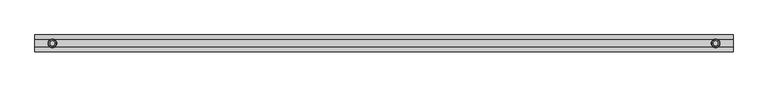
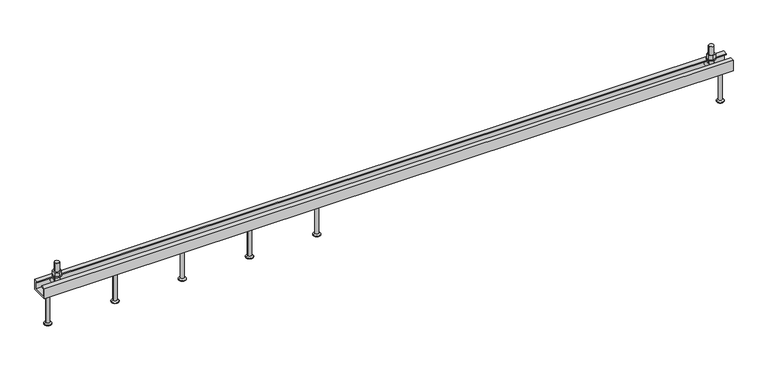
"""IFC4 building model written with IfcOpenShell, lengths in millimetres: fastener geometry, JTA-K JORDAHL® AnchorChannels : JTA-K L=3000 mm."""

from ifc_helpers import new_model, si_unit, point, frame, frame_2d, origin, place, context, project, spatial, polyline, circle_curve, trimmed, segment, composite_curve, outline, extrude, source, transform, mapped, element, save
from ifc_brep_helpers import plane_surface, cylinder_surface, revolved_surface, advanced_brep


def fastener_a3ed88b3(model_context):
    return source(origin(), model_context, "Body", "SolidModel", [
        advanced_brep(
        [(1207.0, 0.0, -48.0), (1184.0, 0.0, -48.0), (1230.0, 0.0, -48.0), (1191.5, 0.0, -195.0), (1207.0, 0.0, -195.0), (1222.5, 0.0, -195.0), (1191.5, 0.0, -193.0), (1222.5, 0.0, -193.0), (1199.2, 0.0, -188.5544029), (1214.8, 0.0, -188.5544029), (1199.2, 0.0, -52.0), (1214.8, 0.0, -52.0)],
        [
            (0, 1),
            (1, 2, circle_curve(frame((1207.0, 0.0, -48.0), z_axis=(0.0, 0.0, 1.0), x_axis=(1.0, 0.0, 0.0)), 23.0)),
            (2, 0),
            (2, 1, circle_curve(frame((1207.0, 0.0, -48.0), z_axis=(0.0, 0.0, 1.0), x_axis=(1.0, 0.0, 0.0)), 23.0)),
            (3, 4),
            (4, 5),
            (5, 3, circle_curve(frame((1207.0, 0.0, -195.0), z_axis=(0.0, 0.0, -1.0), x_axis=(1.0, 0.0, 0.0)), 15.5)),
            (3, 5, circle_curve(frame((1207.0, 0.0, -195.0), z_axis=(0.0, 0.0, -1.0), x_axis=(1.0, 0.0, 0.0)), 15.5)),
            (6, 3),
            (5, 7),
            (7, 6, circle_curve(frame((1207.0, 0.0, -193.0), z_axis=(0.0, 0.0, -1.0), x_axis=(1.0, 0.0, 0.0)), 15.5)),
            (6, 7, circle_curve(frame((1207.0, 0.0, -193.0), z_axis=(0.0, 0.0, -1.0), x_axis=(1.0, 0.0, 0.0)), 15.5)),
            (8, 6),
            (7, 9),
            (9, 8, circle_curve(frame((1207.0, 0.0, -188.5544029), z_axis=(0.0, 0.0, -1.0), x_axis=(1.0, 0.0, 0.0)), 7.8)),
            (8, 9, circle_curve(frame((1207.0, 0.0, -188.5544029), z_axis=(0.0, 0.0, -1.0), x_axis=(1.0, 0.0, 0.0)), 7.8)),
            (10, 8),
            (9, 11),
            (11, 10, circle_curve(frame((1207.0, 0.0, -52.0), z_axis=(0.0, 0.0, -1.0), x_axis=(1.0, 0.0, 0.0)), 7.8)),
            (10, 11, circle_curve(frame((1207.0, 0.0, -52.0), z_axis=(0.0, 0.0, -1.0), x_axis=(1.0, 0.0, 0.0)), 7.8)),
            (1, 10),
            (11, 2),
        ],
        [
            plane_surface(frame((1207.0, 0.0, -48.0), z_axis=(0.0, 0.0, 1.0), x_axis=(1.0, 0.0, 0.0))),
            plane_surface(frame((1207.0, 0.0, -195.0), z_axis=(0.0, 0.0, -1.0), x_axis=(1.0, 0.0, 0.0))),
            cylinder_surface(frame((1207.0, 0.0, 2361.3150031), z_axis=(0.0, 0.0, 1.0), x_axis=(1.0, 0.0, 0.0)), 15.5),
            revolved_surface(polyline([(1222.5, 0.0, -193.0), (1214.8, 0.0, -188.5544029)]), (1207.0, 0.0, 2361.3150031), (0.0, 0.0, 1.0)),
            cylinder_surface(frame((1207.0, 0.0, 2361.3150031), z_axis=(0.0, 0.0, 1.0), x_axis=(1.0, 0.0, 0.0)), 7.8),
            revolved_surface(polyline([(1214.8, 0.0, -52.0), (1230.0, 0.0, -48.0)]), (1207.0, 0.0, 2361.3150031), (0.0, 0.0, 1.0)),
        ],
        [
            (0, [[1, 2, 3]]),
            (0, [[-3, 4, -1]]),
            (1, [[5, 6, 7]]),
            (1, [[-6, -5, 8]]),
            (2, [[9, -7, 10, 11]]),
            (2, [[-10, -8, -9, 12]]),
            (3, [[13, -11, 14, 15]]),
            (3, [[-14, -12, -13, 16]]),
            (4, [[17, -15, 18, 19]]),
            (4, [[-18, -16, -17, 20]]),
            (5, [[21, -19, 22, -2]]),
            (5, [[-22, -20, -21, -4]]),
        ],
    ),
        advanced_brep(
        [(914.0, 0.0, -48.0), (891.0, 0.0, -48.0), (937.0, 0.0, -48.0), (898.5, 0.0, -195.0), (914.0, 0.0, -195.0), (929.5, 0.0, -195.0), (898.5, 0.0, -193.0), (929.5, 0.0, -193.0), (906.2, 0.0, -188.5544029), (921.8, 0.0, -188.5544029), (906.2, 0.0, -52.0), (921.8, 0.0, -52.0)],
        [
            (0, 1),
            (1, 2, circle_curve(frame((914.0, 0.0, -48.0), z_axis=(0.0, 0.0, 1.0), x_axis=(1.0, 0.0, 0.0)), 23.0)),
            (2, 0),
            (2, 1, circle_curve(frame((914.0, 0.0, -48.0), z_axis=(0.0, 0.0, 1.0), x_axis=(1.0, 0.0, 0.0)), 23.0)),
            (3, 4),
            (4, 5),
            (5, 3, circle_curve(frame((914.0, 0.0, -195.0), z_axis=(0.0, 0.0, -1.0), x_axis=(1.0, 0.0, 0.0)), 15.5)),
            (3, 5, circle_curve(frame((914.0, 0.0, -195.0), z_axis=(0.0, 0.0, -1.0), x_axis=(1.0, 0.0, 0.0)), 15.5)),
            (6, 3),
            (5, 7),
            (7, 6, circle_curve(frame((914.0, 0.0, -193.0), z_axis=(0.0, 0.0, -1.0), x_axis=(1.0, 0.0, 0.0)), 15.5)),
            (6, 7, circle_curve(frame((914.0, 0.0, -193.0), z_axis=(0.0, 0.0, -1.0), x_axis=(1.0, 0.0, 0.0)), 15.5)),
            (8, 6),
            (7, 9),
            (9, 8, circle_curve(frame((914.0, 0.0, -188.5544029), z_axis=(0.0, 0.0, -1.0), x_axis=(1.0, 0.0, 0.0)), 7.8)),
            (8, 9, circle_curve(frame((914.0, 0.0, -188.5544029), z_axis=(0.0, 0.0, -1.0), x_axis=(1.0, 0.0, 0.0)), 7.8)),
            (10, 8),
            (9, 11),
            (11, 10, circle_curve(frame((914.0, 0.0, -52.0), z_axis=(0.0, 0.0, -1.0), x_axis=(1.0, 0.0, 0.0)), 7.8)),
            (10, 11, circle_curve(frame((914.0, 0.0, -52.0), z_axis=(0.0, 0.0, -1.0), x_axis=(1.0, 0.0, 0.0)), 7.8)),
            (1, 10),
            (11, 2),
        ],
        [
            plane_surface(frame((914.0, 0.0, -48.0), z_axis=(0.0, 0.0, 1.0), x_axis=(1.0, 0.0, 0.0))),
            plane_surface(frame((914.0, 0.0, -195.0), z_axis=(0.0, 0.0, -1.0), x_axis=(1.0, 0.0, 0.0))),
            cylinder_surface(frame((914.0, 0.0, 2361.3150031), z_axis=(0.0, 0.0, 1.0), x_axis=(1.0, 0.0, 0.0)), 15.5),
            revolved_surface(polyline([(929.5, 0.0, -193.0), (921.8, 0.0, -188.5544029)]), (914.0, 0.0, 2361.3150031), (0.0, 0.0, 1.0)),
            cylinder_surface(frame((914.0, 0.0, 2361.3150031), z_axis=(0.0, 0.0, 1.0), x_axis=(1.0, 0.0, 0.0)), 7.8),
            revolved_surface(polyline([(921.8, 0.0, -52.0), (937.0, 0.0, -48.0)]), (914.0, 0.0, 2361.3150031), (0.0, 0.0, 1.0)),
        ],
        [
            (0, [[1, 2, 3]]),
            (0, [[-3, 4, -1]]),
            (1, [[5, 6, 7]]),
            (1, [[-6, -5, 8]]),
            (2, [[9, -7, 10, 11]]),
            (2, [[-10, -8, -9, 12]]),
            (3, [[13, -11, 14, 15]]),
            (3, [[-14, -12, -13, 16]]),
            (4, [[17, -15, 18, 19]]),
            (4, [[-18, -16, -17, 20]]),
            (5, [[21, -19, 22, -2]]),
            (5, [[-22, -20, -21, -4]]),
        ],
    ),
        advanced_brep(
        [(621.0, 0.0, -48.0), (598.0, 0.0, -48.0), (644.0, 0.0, -48.0), (605.5, 0.0, -195.0), (621.0, 0.0, -195.0), (636.5, 0.0, -195.0), (605.5, 0.0, -193.0), (636.5, 0.0, -193.0), (613.2, 0.0, -188.5544029), (628.8, 0.0, -188.5544029), (613.2, 0.0, -52.0), (628.8, 0.0, -52.0)],
        [
            (0, 1),
            (1, 2, circle_curve(frame((621.0, 0.0, -48.0), z_axis=(0.0, 0.0, 1.0), x_axis=(1.0, 0.0, 0.0)), 23.0)),
            (2, 0),
            (2, 1, circle_curve(frame((621.0, 0.0, -48.0), z_axis=(0.0, 0.0, 1.0), x_axis=(1.0, 0.0, 0.0)), 23.0)),
            (3, 4),
            (4, 5),
            (5, 3, circle_curve(frame((621.0, 0.0, -195.0), z_axis=(0.0, 0.0, -1.0), x_axis=(1.0, 0.0, 0.0)), 15.5)),
            (3, 5, circle_curve(frame((621.0, 0.0, -195.0), z_axis=(0.0, 0.0, -1.0), x_axis=(1.0, 0.0, 0.0)), 15.5)),
            (6, 3),
            (5, 7),
            (7, 6, circle_curve(frame((621.0, 0.0, -193.0), z_axis=(0.0, 0.0, -1.0), x_axis=(1.0, 0.0, 0.0)), 15.5)),
            (6, 7, circle_curve(frame((621.0, 0.0, -193.0), z_axis=(0.0, 0.0, -1.0), x_axis=(1.0, 0.0, 0.0)), 15.5)),
            (8, 6),
            (7, 9),
            (9, 8, circle_curve(frame((621.0, 0.0, -188.5544029), z_axis=(0.0, 0.0, -1.0), x_axis=(1.0, 0.0, 0.0)), 7.8)),
            (8, 9, circle_curve(frame((621.0, 0.0, -188.5544029), z_axis=(0.0, 0.0, -1.0), x_axis=(1.0, 0.0, 0.0)), 7.8)),
            (10, 8),
            (9, 11),
            (11, 10, circle_curve(frame((621.0, 0.0, -52.0), z_axis=(0.0, 0.0, -1.0), x_axis=(1.0, 0.0, 0.0)), 7.8)),
            (10, 11, circle_curve(frame((621.0, 0.0, -52.0), z_axis=(0.0, 0.0, -1.0), x_axis=(1.0, 0.0, 0.0)), 7.8)),
            (1, 10),
            (11, 2),
        ],
        [
            plane_surface(frame((621.0, 0.0, -48.0), z_axis=(0.0, 0.0, 1.0), x_axis=(1.0, 0.0, 0.0))),
            plane_surface(frame((621.0, 0.0, -195.0), z_axis=(0.0, 0.0, -1.0), x_axis=(1.0, 0.0, 0.0))),
            cylinder_surface(frame((621.0, 0.0, 2361.3150031), z_axis=(0.0, 0.0, 1.0), x_axis=(1.0, 0.0, 0.0)), 15.5),
            revolved_surface(polyline([(636.5, 0.0, -193.0), (628.8, 0.0, -188.5544029)]), (621.0, 0.0, 2361.3150031), (0.0, 0.0, 1.0)),
            cylinder_surface(frame((621.0, 0.0, 2361.3150031), z_axis=(0.0, 0.0, 1.0), x_axis=(1.0, 0.0, 0.0)), 7.8),
            revolved_surface(polyline([(628.8, 0.0, -52.0), (644.0, 0.0, -48.0)]), (621.0, 0.0, 2361.3150031), (0.0, 0.0, 1.0)),
        ],
        [
            (0, [[1, 2, 3]]),
            (0, [[-3, 4, -1]]),
            (1, [[5, 6, 7]]),
            (1, [[-6, -5, 8]]),
            (2, [[9, -7, 10, 11]]),
            (2, [[-10, -8, -9, 12]]),
            (3, [[13, -11, 14, 15]]),
            (3, [[-14, -12, -13, 16]]),
            (4, [[17, -15, 18, 19]]),
            (4, [[-18, -16, -17, 20]]),
            (5, [[21, -19, 22, -2]]),
            (5, [[-22, -20, -21, -4]]),
        ],
    ),
        advanced_brep(
        [(328.0, 0.0, -48.0), (305.0, 0.0, -48.0), (351.0, 0.0, -48.0), (312.5, 0.0, -195.0), (328.0, 0.0, -195.0), (343.5, 0.0, -195.0), (312.5, 0.0, -193.0), (343.5, 0.0, -193.0), (320.2, 0.0, -188.5544029), (335.8, 0.0, -188.5544029), (320.2, 0.0, -52.0), (335.8, 0.0, -52.0)],
        [
            (0, 1),
            (1, 2, circle_curve(frame((328.0, 0.0, -48.0), z_axis=(0.0, 0.0, 1.0), x_axis=(1.0, 0.0, 0.0)), 23.0)),
            (2, 0),
            (2, 1, circle_curve(frame((328.0, 0.0, -48.0), z_axis=(0.0, 0.0, 1.0), x_axis=(1.0, 0.0, 0.0)), 23.0)),
            (3, 4),
            (4, 5),
            (5, 3, circle_curve(frame((328.0, 0.0, -195.0), z_axis=(0.0, 0.0, -1.0), x_axis=(1.0, 0.0, 0.0)), 15.5)),
            (3, 5, circle_curve(frame((328.0, 0.0, -195.0), z_axis=(0.0, 0.0, -1.0), x_axis=(1.0, 0.0, 0.0)), 15.5)),
            (6, 3),
            (5, 7),
            (7, 6, circle_curve(frame((328.0, 0.0, -193.0), z_axis=(0.0, 0.0, -1.0), x_axis=(1.0, 0.0, 0.0)), 15.5)),
            (6, 7, circle_curve(frame((328.0, 0.0, -193.0), z_axis=(0.0, 0.0, -1.0), x_axis=(1.0, 0.0, 0.0)), 15.5)),
            (8, 6),
            (7, 9),
            (9, 8, circle_curve(frame((328.0, 0.0, -188.5544029), z_axis=(0.0, 0.0, -1.0), x_axis=(1.0, 0.0, 0.0)), 7.8)),
            (8, 9, circle_curve(frame((328.0, 0.0, -188.5544029), z_axis=(0.0, 0.0, -1.0), x_axis=(1.0, 0.0, 0.0)), 7.8)),
            (10, 8),
            (9, 11),
            (11, 10, circle_curve(frame((328.0, 0.0, -52.0), z_axis=(0.0, 0.0, -1.0), x_axis=(1.0, 0.0, 0.0)), 7.8)),
            (10, 11, circle_curve(frame((328.0, 0.0, -52.0), z_axis=(0.0, 0.0, -1.0), x_axis=(1.0, 0.0, 0.0)), 7.8)),
            (1, 10),
            (11, 2),
        ],
        [
            plane_surface(frame((328.0, 0.0, -48.0), z_axis=(0.0, 0.0, 1.0), x_axis=(1.0, 0.0, 0.0))),
            plane_surface(frame((328.0, 0.0, -195.0), z_axis=(0.0, 0.0, -1.0), x_axis=(1.0, 0.0, 0.0))),
            cylinder_surface(frame((328.0, 0.0, 2361.3150031), z_axis=(0.0, 0.0, 1.0), x_axis=(1.0, 0.0, 0.0)), 15.5),
            revolved_surface(polyline([(343.5, 0.0, -193.0), (335.8, 0.0, -188.5544029)]), (328.0, 0.0, 2361.3150031), (0.0, 0.0, 1.0)),
            cylinder_surface(frame((328.0, 0.0, 2361.3150031), z_axis=(0.0, 0.0, 1.0), x_axis=(1.0, 0.0, 0.0)), 7.8),
            revolved_surface(polyline([(335.8, 0.0, -52.0), (351.0, 0.0, -48.0)]), (328.0, 0.0, 2361.3150031), (0.0, 0.0, 1.0)),
        ],
        [
            (0, [[1, 2, 3]]),
            (0, [[-3, 4, -1]]),
            (1, [[5, 6, 7]]),
            (1, [[-6, -5, 8]]),
            (2, [[9, -7, 10, 11]]),
            (2, [[-10, -8, -9, 12]]),
            (3, [[13, -11, 14, 15]]),
            (3, [[-14, -12, -13, 16]]),
            (4, [[17, -15, 18, 19]]),
            (4, [[-18, -16, -17, 20]]),
            (5, [[21, -19, 22, -2]]),
            (5, [[-22, -20, -21, -4]]),
        ],
    ),
        extrude(outline(polyline([(2925.0, -17.3205081), (2910.0, -8.660254), (2910.0, 8.660254), (2925.0, 17.3205081), (2940.0, 8.660254), (2940.0, -8.660254), (2925.0, -17.3205081)]), holes=[composite_curve([segment(trimmed(circle_curve(frame_2d((2925.0, 0.0)), 10.0), [point((2915.0, 0.0))], [point((2935.0, 0.0))], True, "CARTESIAN"), True, "CONTINUOUS"), segment(trimmed(circle_curve(frame_2d((2925.0, 0.0)), 10.0), [point((2935.0, 0.0))], [point((2915.0, 0.0))], True, "CARTESIAN"), True, "CONTINUOUS")], self_intersect=False)]), frame((0.0, 0.0, 18.0), z_axis=(0.0, 0.0, 1.0), x_axis=(1.0, 0.0, 0.0)), (0.0, 0.0, 1.0), 18.0),
        extrude(outline(composite_curve([segment(trimmed(circle_curve(frame_2d((2925.0, 0.0)), 18.5), [point((2906.5, 0.0))], [point((2943.5, 0.0))], False, "CARTESIAN"), True, "CONTINUOUS"), segment(trimmed(circle_curve(frame_2d((2925.0, 0.0)), 18.5), [point((2943.5, 0.0))], [point((2906.5, 0.0))], False, "CARTESIAN"), True, "CONTINUOUS")], self_intersect=False), holes=[composite_curve([segment(trimmed(circle_curve(frame_2d((2925.0, 0.0)), 10.5), [point((2914.5, 0.0))], [point((2935.5, 0.0))], True, "CARTESIAN"), True, "CONTINUOUS"), segment(trimmed(circle_curve(frame_2d((2925.0, 0.0)), 10.5), [point((2935.5, 0.0))], [point((2914.5, 0.0))], True, "CARTESIAN"), True, "CONTINUOUS")], self_intersect=False)]), frame((0.0, 0.0, 15.0), z_axis=(0.0, 0.0, 1.0), x_axis=(1.0, 0.0, 0.0)), (0.0, 0.0, 1.0), 3.0),
        extrude(outline(polyline([(75.0, -17.3205081), (60.0, -8.660254), (60.0, 8.660254), (75.0, 17.3205081), (90.0, 8.660254), (90.0, -8.660254), (75.0, -17.3205081)]), holes=[composite_curve([segment(trimmed(circle_curve(frame_2d((75.0, 0.0)), 10.0), [point((65.0, 0.0))], [point((85.0, 0.0))], True, "CARTESIAN"), True, "CONTINUOUS"), segment(trimmed(circle_curve(frame_2d((75.0, 0.0)), 10.0), [point((85.0, 0.0))], [point((65.0, 0.0))], True, "CARTESIAN"), True, "CONTINUOUS")], self_intersect=False)]), frame((0.0, 0.0, 18.0), z_axis=(0.0, 0.0, 1.0), x_axis=(1.0, 0.0, 0.0)), (0.0, 0.0, 1.0), 18.0),
        extrude(outline(composite_curve([segment(trimmed(circle_curve(frame_2d((75.0, 0.0)), 18.5), [point((56.5, 0.0))], [point((93.5, 0.0))], False, "CARTESIAN"), True, "CONTINUOUS"), segment(trimmed(circle_curve(frame_2d((75.0, 0.0)), 18.5), [point((93.5, 0.0))], [point((56.5, 0.0))], False, "CARTESIAN"), True, "CONTINUOUS")], self_intersect=False), holes=[composite_curve([segment(trimmed(circle_curve(frame_2d((75.0, 0.0)), 10.5), [point((64.5, 0.0))], [point((85.5, 0.0))], True, "CARTESIAN"), True, "CONTINUOUS"), segment(trimmed(circle_curve(frame_2d((75.0, 0.0)), 10.5), [point((85.5, 0.0))], [point((64.5, 0.0))], True, "CARTESIAN"), True, "CONTINUOUS")], self_intersect=False)]), frame((0.0, 0.0, 15.0), z_axis=(0.0, 0.0, 1.0), x_axis=(1.0, 0.0, 0.0)), (0.0, 0.0, 1.0), 3.0),
        advanced_brep(
        [(2937.5, -29.0, -6.0), (2937.5, -29.0, -26.0), (2937.5, 29.0, -26.0), (2937.5, 29.0, -6.0), (2912.5, -29.0, -6.0), (2912.5, 29.0, -6.0), (2912.5, 29.0, -26.0), (2912.5, -29.0, -26.0), (2935.0, 0.0, -6.0), (2915.0, 0.0, -6.0), (2915.0, 0.0, 74.0), (2935.0, 0.0, 74.0)],
        [
            (0, 1),
            (1, 2),
            (2, 3),
            (3, 0),
            (4, 5),
            (5, 6),
            (6, 7),
            (7, 4),
            (3, 5),
            (4, 0),
            (8, 9, circle_curve(frame((2925.0, 0.0, -6.0), z_axis=(0.0, 0.0, -1.0), x_axis=(1.0, 0.0, 0.0)), 10.0)),
            (9, 8, circle_curve(frame((2925.0, 0.0, -6.0), z_axis=(0.0, 0.0, -1.0), x_axis=(1.0, 0.0, 0.0)), 10.0)),
            (2, 6),
            (1, 7),
            (10, 11, circle_curve(frame((2925.0, 0.0, 74.0), z_axis=(0.0, 0.0, 1.0), x_axis=(1.0, 0.0, 0.0)), 10.0)),
            (11, 10, circle_curve(frame((2925.0, 0.0, 74.0), z_axis=(0.0, 0.0, 1.0), x_axis=(1.0, 0.0, 0.0)), 10.0)),
            (11, 8),
            (9, 10),
        ],
        [
            plane_surface(frame((2937.5, 29.0, -6.0), z_axis=(1.0, 0.0, 0.0), x_axis=(0.0, 1.0, 0.0))),
            plane_surface(frame((2912.5, 29.0, -6.0), z_axis=(-1.0, 0.0, 0.0), x_axis=(0.0, -1.0, 0.0))),
            plane_surface(frame((2937.5, -29.0, -6.0), z_axis=(0.0, 0.0, 1.0), x_axis=(-1.0, 0.0, 0.0))),
            plane_surface(frame((2937.5, 29.0, -6.0), z_axis=(0.0, 1.0, 0.0), x_axis=(-1.0, 0.0, 0.0))),
            plane_surface(frame((2937.5, 29.0, -26.0), z_axis=(0.0, 0.0, -1.0), x_axis=(-1.0, 0.0, 0.0))),
            plane_surface(frame((2937.5, -29.0, -26.0), z_axis=(0.0, -1.0, 0.0), x_axis=(-1.0, 0.0, 0.0))),
            plane_surface(frame((2935.0, 0.0, 74.0), z_axis=(0.0, 0.0, 1.0), x_axis=(0.0, -1.0, 0.0))),
            cylinder_surface(frame((2925.0, 0.0, -6.0), z_axis=(0.0, 0.0, 1.0), x_axis=(1.0, 0.0, 0.0)), 10.0),
        ],
        [
            (0, [[1, 2, 3, 4]]),
            (1, [[5, 6, 7, 8]]),
            (2, [[9, -5, 10, -4], [11, 12]]),
            (3, [[13, -6, -9, -3]]),
            (4, [[14, -7, -13, -2]]),
            (5, [[-10, -8, -14, -1]]),
            (6, [[15, 16]]),
            (7, [[17, -12, 18, -16]]),
            (7, [[-18, -11, -17, -15]]),
        ],
    ),
        advanced_brep(
        [(87.5, -29.0, -6.0), (87.5, -29.0, -26.0), (87.5, 29.0, -26.0), (87.5, 29.0, -6.0), (62.5, -29.0, -6.0), (62.5, 29.0, -6.0), (62.5, 29.0, -26.0), (62.5, -29.0, -26.0), (85.0, 0.0, -6.0), (65.0, 0.0, -6.0), (65.0, 0.0, 74.0), (85.0, 0.0, 74.0)],
        [
            (0, 1),
            (1, 2),
            (2, 3),
            (3, 0),
            (4, 5),
            (5, 6),
            (6, 7),
            (7, 4),
            (3, 5),
            (4, 0),
            (8, 9, circle_curve(frame((75.0, 0.0, -6.0), z_axis=(0.0, 0.0, -1.0), x_axis=(1.0, 0.0, 0.0)), 10.0)),
            (9, 8, circle_curve(frame((75.0, 0.0, -6.0), z_axis=(0.0, 0.0, -1.0), x_axis=(1.0, 0.0, 0.0)), 10.0)),
            (2, 6),
            (1, 7),
            (10, 11, circle_curve(frame((75.0, 0.0, 74.0), z_axis=(0.0, 0.0, 1.0), x_axis=(1.0, 0.0, 0.0)), 10.0)),
            (11, 10, circle_curve(frame((75.0, 0.0, 74.0), z_axis=(0.0, 0.0, 1.0), x_axis=(1.0, 0.0, 0.0)), 10.0)),
            (11, 8),
            (9, 10),
        ],
        [
            plane_surface(frame((87.5, 29.0, -6.0), z_axis=(1.0, 0.0, 0.0), x_axis=(0.0, 1.0, 0.0))),
            plane_surface(frame((62.5, 29.0, -6.0), z_axis=(-1.0, 0.0, 0.0), x_axis=(0.0, -1.0, 0.0))),
            plane_surface(frame((87.5, -29.0, -6.0), z_axis=(0.0, 0.0, 1.0), x_axis=(-1.0, 0.0, 0.0))),
            plane_surface(frame((87.5, 29.0, -6.0), z_axis=(0.0, 1.0, 0.0), x_axis=(-1.0, 0.0, 0.0))),
            plane_surface(frame((87.5, 29.0, -26.0), z_axis=(0.0, 0.0, -1.0), x_axis=(-1.0, 0.0, 0.0))),
            plane_surface(frame((87.5, -29.0, -26.0), z_axis=(0.0, -1.0, 0.0), x_axis=(-1.0, 0.0, 0.0))),
            plane_surface(frame((85.0, 0.0, 74.0), z_axis=(0.0, 0.0, 1.0), x_axis=(0.0, -1.0, 0.0))),
            cylinder_surface(frame((75.0, 0.0, -6.0), z_axis=(0.0, 0.0, 1.0), x_axis=(1.0, 0.0, 0.0)), 10.0),
        ],
        [
            (0, [[1, 2, 3, 4]]),
            (1, [[5, 6, 7, 8]]),
            (2, [[9, -5, 10, -4], [11, 12]]),
            (3, [[13, -6, -9, -3]]),
            (4, [[14, -7, -13, -2]]),
            (5, [[-10, -8, -14, -1]]),
            (6, [[15, 16]]),
            (7, [[17, -12, 18, -16]]),
            (7, [[-18, -11, -17, -15]]),
        ],
    ),
        advanced_brep(
        [(2965.0, 0.0, -48.0), (2942.0, 0.0, -48.0), (2988.0, 0.0, -48.0), (2949.5, 0.0, -195.0), (2965.0, 0.0, -195.0), (2980.5, 0.0, -195.0), (2949.5, 0.0, -193.0), (2980.5, 0.0, -193.0), (2957.2, 0.0, -188.5544029), (2972.8, 0.0, -188.5544029), (2957.2, 0.0, -52.0), (2972.8, 0.0, -52.0)],
        [
            (0, 1),
            (1, 2, circle_curve(frame((2965.0, 0.0, -48.0), z_axis=(0.0, 0.0, 1.0), x_axis=(1.0, 0.0, 0.0)), 23.0)),
            (2, 0),
            (2, 1, circle_curve(frame((2965.0, 0.0, -48.0), z_axis=(0.0, 0.0, 1.0), x_axis=(1.0, 0.0, 0.0)), 23.0)),
            (3, 4),
            (4, 5),
            (5, 3, circle_curve(frame((2965.0, 0.0, -195.0), z_axis=(0.0, 0.0, -1.0), x_axis=(1.0, 0.0, 0.0)), 15.5)),
            (3, 5, circle_curve(frame((2965.0, 0.0, -195.0), z_axis=(0.0, 0.0, -1.0), x_axis=(1.0, 0.0, 0.0)), 15.5)),
            (6, 3),
            (5, 7),
            (7, 6, circle_curve(frame((2965.0, 0.0, -193.0), z_axis=(0.0, 0.0, -1.0), x_axis=(1.0, 0.0, 0.0)), 15.5)),
            (6, 7, circle_curve(frame((2965.0, 0.0, -193.0), z_axis=(0.0, 0.0, -1.0), x_axis=(1.0, 0.0, 0.0)), 15.5)),
            (8, 6),
            (7, 9),
            (9, 8, circle_curve(frame((2965.0, 0.0, -188.5544029), z_axis=(0.0, 0.0, -1.0), x_axis=(1.0, 0.0, 0.0)), 7.8)),
            (8, 9, circle_curve(frame((2965.0, 0.0, -188.5544029), z_axis=(0.0, 0.0, -1.0), x_axis=(1.0, 0.0, 0.0)), 7.8)),
            (10, 8),
            (9, 11),
            (11, 10, circle_curve(frame((2965.0, 0.0, -52.0), z_axis=(0.0, 0.0, -1.0), x_axis=(1.0, 0.0, 0.0)), 7.8)),
            (10, 11, circle_curve(frame((2965.0, 0.0, -52.0), z_axis=(0.0, 0.0, -1.0), x_axis=(1.0, 0.0, 0.0)), 7.8)),
            (1, 10),
            (11, 2),
        ],
        [
            plane_surface(frame((2965.0, 0.0, -48.0), z_axis=(0.0, 0.0, 1.0), x_axis=(1.0, 0.0, 0.0))),
            plane_surface(frame((2965.0, 0.0, -195.0), z_axis=(0.0, 0.0, -1.0), x_axis=(1.0, 0.0, 0.0))),
            cylinder_surface(frame((2965.0, 0.0, 2361.3150031), z_axis=(0.0, 0.0, 1.0), x_axis=(1.0, 0.0, 0.0)), 15.5),
            revolved_surface(polyline([(2980.5, 0.0, -193.0), (2972.8, 0.0, -188.5544029)]), (2965.0, 0.0, 2361.3150031), (0.0, 0.0, 1.0)),
            cylinder_surface(frame((2965.0, 0.0, 2361.3150031), z_axis=(0.0, 0.0, 1.0), x_axis=(1.0, 0.0, 0.0)), 7.8),
            revolved_surface(polyline([(2972.8, 0.0, -52.0), (2988.0, 0.0, -48.0)]), (2965.0, 0.0, 2361.3150031), (0.0, 0.0, 1.0)),
        ],
        [
            (0, [[1, 2, 3]]),
            (0, [[-3, 4, -1]]),
            (1, [[5, 6, 7]]),
            (1, [[-6, -5, 8]]),
            (2, [[9, -7, 10, 11]]),
            (2, [[-10, -8, -9, 12]]),
            (3, [[13, -11, 14, 15]]),
            (3, [[-14, -12, -13, 16]]),
            (4, [[17, -15, 18, 19]]),
            (4, [[-18, -16, -17, 20]]),
            (5, [[21, -19, 22, -2]]),
            (5, [[-22, -20, -21, -4]]),
        ],
    ),
        advanced_brep(
        [(35.0, 0.0, -48.0), (12.0, 0.0, -48.0), (58.0, 0.0, -48.0), (19.5, 0.0, -195.0), (35.0, 0.0, -195.0), (50.5, 0.0, -195.0), (19.5, 0.0, -193.0), (50.5, 0.0, -193.0), (27.2, 0.0, -188.5544029), (42.8, 0.0, -188.5544029), (27.2, 0.0, -52.0), (42.8, 0.0, -52.0)],
        [
            (0, 1),
            (1, 2, circle_curve(frame((35.0, 0.0, -48.0), z_axis=(0.0, 0.0, 1.0), x_axis=(1.0, 0.0, 0.0)), 23.0)),
            (2, 0),
            (2, 1, circle_curve(frame((35.0, 0.0, -48.0), z_axis=(0.0, 0.0, 1.0), x_axis=(1.0, 0.0, 0.0)), 23.0)),
            (3, 4),
            (4, 5),
            (5, 3, circle_curve(frame((35.0, 0.0, -195.0), z_axis=(0.0, 0.0, -1.0), x_axis=(1.0, 0.0, 0.0)), 15.5)),
            (3, 5, circle_curve(frame((35.0, 0.0, -195.0), z_axis=(0.0, 0.0, -1.0), x_axis=(1.0, 0.0, 0.0)), 15.5)),
            (6, 3),
            (5, 7),
            (7, 6, circle_curve(frame((35.0, 0.0, -193.0), z_axis=(0.0, 0.0, -1.0), x_axis=(1.0, 0.0, 0.0)), 15.5)),
            (6, 7, circle_curve(frame((35.0, 0.0, -193.0), z_axis=(0.0, 0.0, -1.0), x_axis=(1.0, 0.0, 0.0)), 15.5)),
            (8, 6),
            (7, 9),
            (9, 8, circle_curve(frame((35.0, 0.0, -188.5544029), z_axis=(0.0, 0.0, -1.0), x_axis=(1.0, 0.0, 0.0)), 7.8)),
            (8, 9, circle_curve(frame((35.0, 0.0, -188.5544029), z_axis=(0.0, 0.0, -1.0), x_axis=(1.0, 0.0, 0.0)), 7.8)),
            (10, 8),
            (9, 11),
            (11, 10, circle_curve(frame((35.0, 0.0, -52.0), z_axis=(0.0, 0.0, -1.0), x_axis=(1.0, 0.0, 0.0)), 7.8)),
            (10, 11, circle_curve(frame((35.0, 0.0, -52.0), z_axis=(0.0, 0.0, -1.0), x_axis=(1.0, 0.0, 0.0)), 7.8)),
            (1, 10),
            (11, 2),
        ],
        [
            plane_surface(frame((35.0, 0.0, -48.0), z_axis=(0.0, 0.0, 1.0), x_axis=(1.0, 0.0, 0.0))),
            plane_surface(frame((35.0, 0.0, -195.0), z_axis=(0.0, 0.0, -1.0), x_axis=(1.0, 0.0, 0.0))),
            cylinder_surface(frame((35.0, 0.0, 2361.3150031), z_axis=(0.0, 0.0, 1.0), x_axis=(1.0, 0.0, 0.0)), 15.5),
            revolved_surface(polyline([(50.5, 0.0, -193.0), (42.8, 0.0, -188.5544029)]), (35.0, 0.0, 2361.3150031), (0.0, 0.0, 1.0)),
            cylinder_surface(frame((35.0, 0.0, 2361.3150031), z_axis=(0.0, 0.0, 1.0), x_axis=(1.0, 0.0, 0.0)), 7.8),
            revolved_surface(polyline([(42.8, 0.0, -52.0), (58.0, 0.0, -48.0)]), (35.0, 0.0, 2361.3150031), (0.0, 0.0, 1.0)),
        ],
        [
            (0, [[1, 2, 3]]),
            (0, [[-3, 4, -1]]),
            (1, [[5, 6, 7]]),
            (1, [[-6, -5, 8]]),
            (2, [[9, -7, 10, 11]]),
            (2, [[-10, -8, -9, 12]]),
            (3, [[13, -11, 14, 15]]),
            (3, [[-14, -12, -13, 16]]),
            (4, [[17, -15, 18, 19]]),
            (4, [[-18, -16, -17, 20]]),
            (5, [[21, -19, 22, -2]]),
            (5, [[-22, -20, -21, -4]]),
        ],
    ),
        extrude(outline(polyline([(-36.0, 0.0), (-16.5, 0.0), (-16.5, -6.0), (-30.0, -6.0), (-30.0, -42.0), (30.0, -42.0), (30.0, -6.0), (16.5, -6.0), (16.5, 0.0), (36.0, 0.0), (36.0, -48.0), (-36.0, -48.0), (-36.0, 0.0)])), frame((0.0, 0.0, 0.0), z_axis=(1.0, 0.0, 0.0), x_axis=(0.0, 1.0, 0.0)), (0.0, 0.0, 1.0), 3000.0),
    ])


if __name__ == "__main__":
    model = new_model("IFC4")
    model_context = context("Model", 3, world=origin())
    ifc_project = project(units=[si_unit("LENGTHUNIT", "METRE", prefix="MILLI")], contexts=[model_context])
    site = spatial("IfcSite", under=ifc_project)
    building = spatial("IfcBuilding", under=site)
    placement = place(None, origin())
    fastener_shape = fastener_a3ed88b3(model_context)
    element("IfcFastener", 1, ObjectType="JTA-K JORDAHL® AnchorChannels : JTA-K L=3000 mm", at=placement, inside=building, context=model_context, shape_type="MappedRepresentation", body=[
        mapped(fastener_shape, transform((0.0, 0.0, 0.0), x_axis=(1.0, 0.0, 0.0), y_axis=(0.0, 1.0, 0.0), z_axis=(0.0, 0.0, 1.0))),
    ])
    save(model, "model.ifc")
